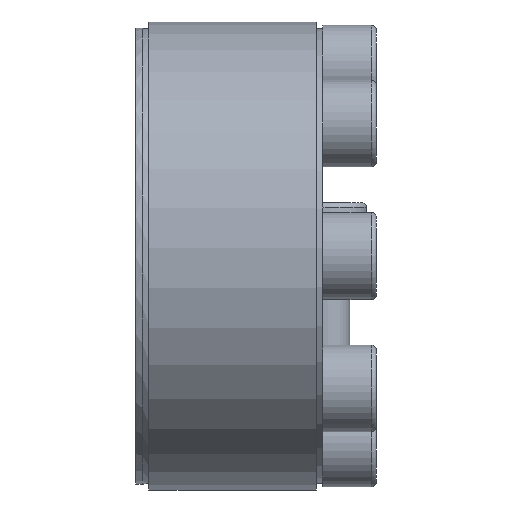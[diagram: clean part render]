
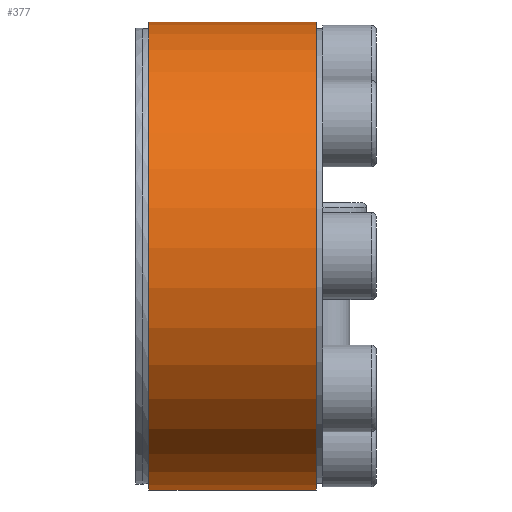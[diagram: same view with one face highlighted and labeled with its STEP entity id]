
A CAD part, left-side view. The second image highlights one B-rep face of the part: STEP entity #377.
In plain terms, the highlighted cylindrical face has radius 35 mm (diameter 70 mm), a partial arc.
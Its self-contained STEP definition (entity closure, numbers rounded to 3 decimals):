
#377 = ADVANCED_FACE( '', ( #586 ), #587, .T. );
#586 = FACE_OUTER_BOUND( '', #730, .T. );
#587 = CYLINDRICAL_SURFACE( '', #731, 35. );
#730 = EDGE_LOOP( '', ( #899, #900, #901, #902 ) );
#731 = AXIS2_PLACEMENT_3D( '', #903, #904, #905 );
#899 = ORIENTED_EDGE( '', *, *, #1247, .F. );
#900 = ORIENTED_EDGE( '', *, *, #1248, .T. );
#901 = ORIENTED_EDGE( '', *, *, #1249, .T. );
#902 = ORIENTED_EDGE( '', *, *, #1250, .F. );
#903 = CARTESIAN_POINT( '', ( 0., -60., 0. ) );
#904 = DIRECTION( '', ( 0., 1., 0. ) );
#905 = DIRECTION( '', ( 0., 0., -1. ) );
#1247 = EDGE_CURVE( '', #1383, #1384, #1385, .T. );
#1248 = EDGE_CURVE( '', #1383, #1386, #1387, .F. );
#1249 = EDGE_CURVE( '', #1386, #1388, #1389, .T. );
#1250 = EDGE_CURVE( '', #1384, #1388, #1390, .F. );
#1383 = VERTEX_POINT( '', #1493 );
#1384 = VERTEX_POINT( '', #1494 );
#1385 = CIRCLE( '', #1495, 35. );
#1386 = VERTEX_POINT( '', #1496 );
#1387 = LINE( '', #1497, #1498 );
#1388 = VERTEX_POINT( '', #1499 );
#1389 = CIRCLE( '', #1500, 35. );
#1390 = LINE( '', #1501, #1502 );
#1493 = CARTESIAN_POINT( '', ( 12.698, 1., 32.615 ) );
#1494 = CARTESIAN_POINT( '', ( 14.084, 1., 32.041 ) );
#1495 = AXIS2_PLACEMENT_3D( '', #1650, #1651, #1652 );
#1496 = CARTESIAN_POINT( '', ( 12.698, 26., 32.615 ) );
#1497 = CARTESIAN_POINT( '', ( 12.698, -60., 32.615 ) );
#1498 = VECTOR( '', #1653, 1000. );
#1499 = CARTESIAN_POINT( '', ( 14.084, 26., 32.041 ) );
#1500 = AXIS2_PLACEMENT_3D( '', #1654, #1655, #1656 );
#1501 = CARTESIAN_POINT( '', ( 14.084, -60., 32.041 ) );
#1502 = VECTOR( '', #1657, 1000. );
#1650 = CARTESIAN_POINT( '', ( 0., 1., 0. ) );
#1651 = DIRECTION( '', ( 0., -1., 0. ) );
#1652 = DIRECTION( '', ( 0., 0., -1. ) );
#1653 = DIRECTION( '', ( 0., -1., 0. ) );
#1654 = CARTESIAN_POINT( '', ( 0., 26., 0. ) );
#1655 = DIRECTION( '', ( 0., -1., 0. ) );
#1656 = DIRECTION( '', ( 0., 0., -1. ) );
#1657 = DIRECTION( '', ( 0., -1., 0. ) );
